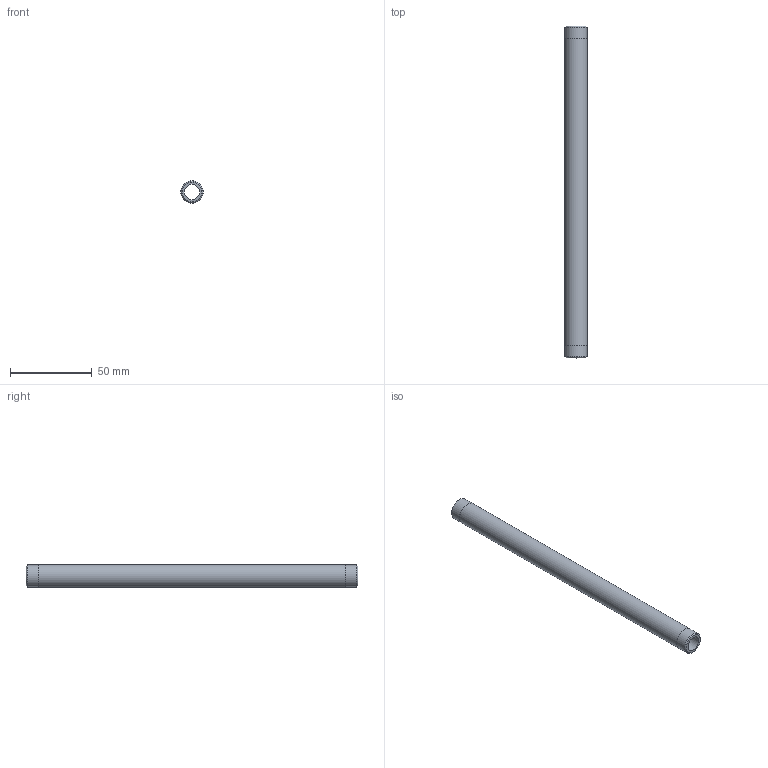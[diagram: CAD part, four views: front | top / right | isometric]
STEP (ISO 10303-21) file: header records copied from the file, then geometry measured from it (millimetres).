
FILE_DESCRIPTION(/* description */ (''),/* implementation_level */ '2;1');
FILE_NAME(/* name */ 'C:/Users/drich/Desktop/BPN14-8 v1.step',/* time_stamp */ '2020-01-03T14:38:03-06:00',/* author */ (''),/* organization */ (''),/* preprocessor_version */ 'ST-DEVELOPER v18',/* originating_system */ 'Autodesk Translation Framework v8.12.0.6',/* authorisation */ '');
FILE_SCHEMA (('AUTOMOTIVE_DESIGN { 1 0 10303 214 3 1 1 }'));
Length unit declared in the file: inch
Products named in the file (1): BPN14-8
Bounding box: 13.72 x 203.2 x 13.72 mm (x, y, z)
Volume: 16341.2 mm3; surface area: 14777 mm2
Topology: 1 solids, 1 shells, 10 faces, 24 edges, 18 vertices
Faces by surface type: cylinder 4, plane 4, cone 2
Full cylindrical faces by diameter (mm): 9.246 x1, 13.665 x2, 13.716 x1
Entity records: 360 total; most frequent: DIRECTION 64, CARTESIAN_POINT 53, ORIENTED_EDGE 48, AXIS2_PLACEMENT_3D 29, EDGE_CURVE 24, CIRCLE 18, VERTEX_POINT 18, EDGE_LOOP 14
